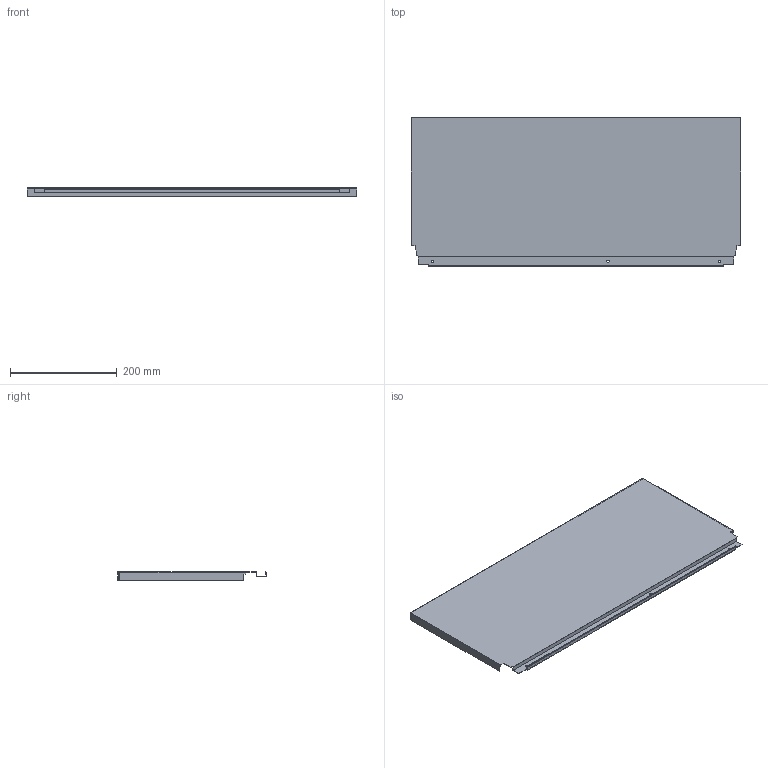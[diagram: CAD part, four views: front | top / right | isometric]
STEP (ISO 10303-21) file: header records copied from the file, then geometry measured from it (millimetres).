
FILE_DESCRIPTION (( 'STEP AP214' ), '1' );
FILE_NAME ('_DWD_XP Stahlrückwand_H278_KAB700_S16.step', '2010-07-08T13:03:48', ( 'grass' ), ( '' ), 'SwSTEP 2.0', 'SolidWorks 2010', '' );
FILE_SCHEMA (( 'AUTOMOTIVE_DESIGN' ));
Length unit declared in the file: millimetre
Products named in the file (1): _DWD_XP Stahlrückwand_H278_KAB700_S16
Bounding box: 617 x 278.57 x 16 mm (x, y, z)
Volume: 172433.3 mm3; surface area: 393552.6 mm2
Topology: 1 solids, 1 shells, 46 faces, 132 edges, 88 vertices
Faces by surface type: plane 40, cylinder 6
Entity records: 1534 total; most frequent: CARTESIAN_POINT 267, ORIENTED_EDGE 264, DIRECTION 238, EDGE_CURVE 132, VECTOR 120, LINE 120, VERTEX_POINT 88, AXIS2_PLACEMENT_3D 59
